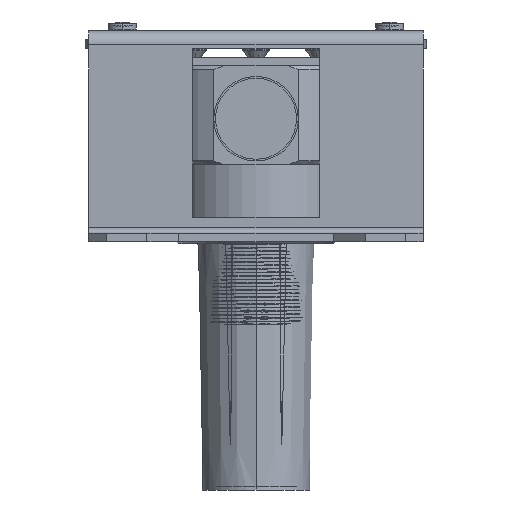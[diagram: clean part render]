
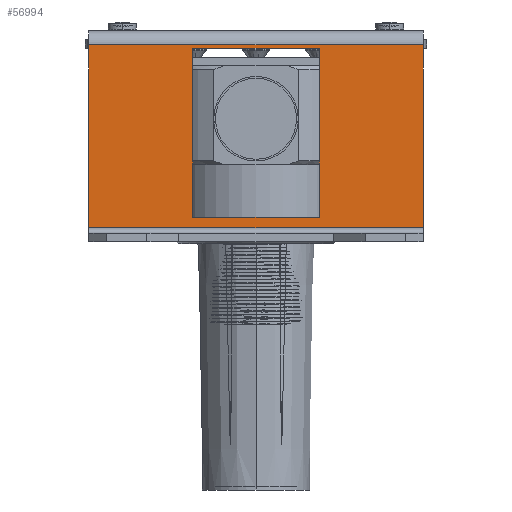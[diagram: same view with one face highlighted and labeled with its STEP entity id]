
A CAD part, front view. The second image highlights one B-rep face of the part: STEP entity #56994.
In plain terms, the highlighted planar face has unit normal (0, -1, 0) as drawn and (-1, 0, 0) by its records, which use the part's own axes.
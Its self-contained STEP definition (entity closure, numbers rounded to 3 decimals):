
#55446=DIRECTION('',(0.,0.,-1.));
#55447=VECTOR('',#55446,95.);
#55448=CARTESIAN_POINT('',(73.,56.,47.5));
#55449=LINE('',#55448,#55447);
#55485=DIRECTION('',(0.,1.,0.));
#55486=VECTOR('',#55485,52.);
#55487=CARTESIAN_POINT('',(73.,4.,47.5));
#55488=LINE('',#55487,#55486);
#55744=DIRECTION('',(0.,0.,1.));
#55745=VECTOR('',#55744,95.);
#55746=CARTESIAN_POINT('',(73.,4.,-47.5));
#55747=LINE('',#55746,#55745);
#55748=DIRECTION('',(0.,1.,0.));
#55749=VECTOR('',#55748,52.);
#55750=CARTESIAN_POINT('',(73.,4.,-47.5));
#55751=LINE('',#55750,#55749);
#55756=DIRECTION('',(0.,1.,0.));
#55757=VECTOR('',#55756,48.);
#55758=CARTESIAN_POINT('',(73.,7.,-18.));
#55759=LINE('',#55758,#55757);
#55764=DIRECTION('',(0.,0.,-1.));
#55765=VECTOR('',#55764,36.);
#55766=CARTESIAN_POINT('',(73.,7.,18.));
#55767=LINE('',#55766,#55765);
#55772=DIRECTION('',(0.,-1.,0.));
#55773=VECTOR('',#55772,48.);
#55774=CARTESIAN_POINT('',(73.,55.,18.));
#55775=LINE('',#55774,#55773);
#55780=DIRECTION('',(0.,0.,1.));
#55781=VECTOR('',#55780,36.);
#55782=CARTESIAN_POINT('',(73.,55.,-18.));
#55783=LINE('',#55782,#55781);
#56176=CARTESIAN_POINT('',(73.,56.,-47.5));
#56177=VERTEX_POINT('',#56176);
#56178=CARTESIAN_POINT('',(73.,4.,-47.5));
#56179=VERTEX_POINT('',#56178);
#56302=CARTESIAN_POINT('',(73.,4.,47.5));
#56303=VERTEX_POINT('',#56302);
#56304=CARTESIAN_POINT('',(73.,56.,47.5));
#56305=VERTEX_POINT('',#56304);
#56414=CARTESIAN_POINT('',(73.,7.,-18.));
#56415=CARTESIAN_POINT('',(73.,55.,-18.));
#56416=VERTEX_POINT('',#56414);
#56417=VERTEX_POINT('',#56415);
#56418=CARTESIAN_POINT('',(73.,7.,18.));
#56419=VERTEX_POINT('',#56418);
#56420=CARTESIAN_POINT('',(73.,55.,18.));
#56421=VERTEX_POINT('',#56420);
#56973=CARTESIAN_POINT('',(73.,60.,-47.5));
#56974=DIRECTION('',(-1.,0.,0.));
#56975=DIRECTION('',(0.,-1.,0.));
#56976=AXIS2_PLACEMENT_3D('',#56973,#56974,#56975);
#56977=PLANE('',#56976);
#56978=ORIENTED_EDGE('',*,*,#56967,.F.);
#56979=ORIENTED_EDGE('',*,*,#56667,.T.);
#56980=ORIENTED_EDGE('',*,*,#56696,.F.);
#56981=ORIENTED_EDGE('',*,*,#56722,.F.);
#56982=EDGE_LOOP('',(#56978,#56979,#56980,#56981));
#56983=FACE_OUTER_BOUND('',#56982,.F.);
#56985=ORIENTED_EDGE('',*,*,#56984,.F.);
#56987=ORIENTED_EDGE('',*,*,#56986,.F.);
#56989=ORIENTED_EDGE('',*,*,#56988,.F.);
#56991=ORIENTED_EDGE('',*,*,#56990,.F.);
#56992=EDGE_LOOP('',(#56985,#56987,#56989,#56991));
#56993=FACE_BOUND('',#56992,.F.);
#56667=EDGE_CURVE('',#56179,#56177,#55751,.T.);
#56696=EDGE_CURVE('',#56305,#56177,#55449,.T.);
#56722=EDGE_CURVE('',#56303,#56305,#55488,.T.);
#56967=EDGE_CURVE('',#56179,#56303,#55747,.T.);
#56984=EDGE_CURVE('',#56416,#56417,#55759,.T.);
#56986=EDGE_CURVE('',#56419,#56416,#55767,.T.);
#56988=EDGE_CURVE('',#56421,#56419,#55775,.T.);
#56990=EDGE_CURVE('',#56417,#56421,#55783,.T.);
#56994=ADVANCED_FACE('',(#56983,#56993),#56977,.T.);
